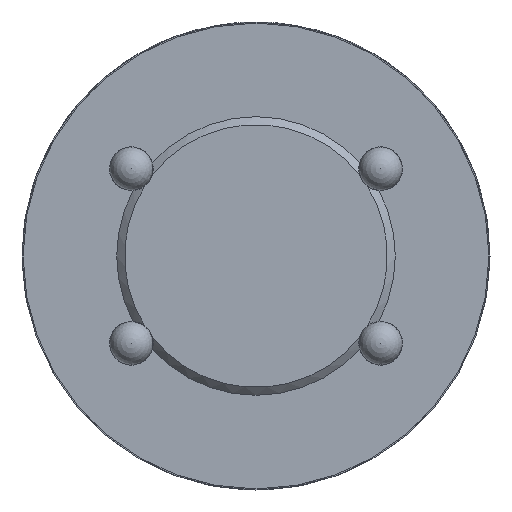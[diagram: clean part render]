
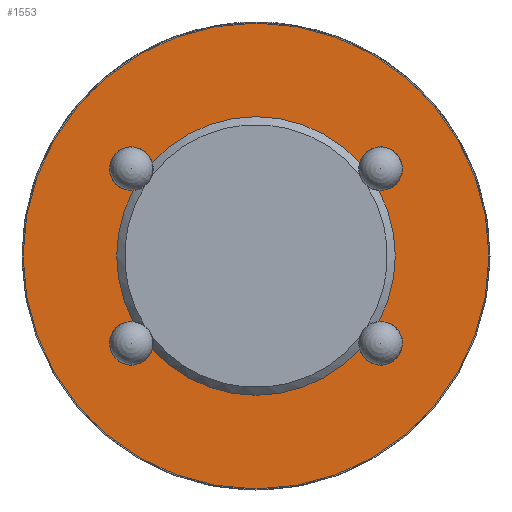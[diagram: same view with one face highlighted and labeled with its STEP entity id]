
A CAD part, left-side view. The second image highlights one B-rep face of the part: STEP entity #1553.
In plain terms, the highlighted planar face has unit normal (-1, 0, 0).
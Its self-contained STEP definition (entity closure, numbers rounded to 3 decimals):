
#54=PLANE('',#1678);
#200=CIRCLE('',#1664,12.5);
#203=CIRCLE('',#1668,12.5);
#204=CIRCLE('',#1670,12.5);
#207=CIRCLE('',#1674,12.5);
#208=CIRCLE('',#1676,20.9);
#210=CIRCLE('',#1679,1.96);
#211=CIRCLE('',#1680,1.96);
#212=CIRCLE('',#1681,1.96);
#213=CIRCLE('',#1682,1.96);
#441=ORIENTED_EDGE('',*,*,#783,.F.);
#442=ORIENTED_EDGE('',*,*,#871,.T.);
#443=ORIENTED_EDGE('',*,*,#811,.F.);
#444=ORIENTED_EDGE('',*,*,#872,.T.);
#445=ORIENTED_EDGE('',*,*,#823,.F.);
#446=ORIENTED_EDGE('',*,*,#873,.T.);
#447=ORIENTED_EDGE('',*,*,#868,.F.);
#448=ORIENTED_EDGE('',*,*,#874,.T.);
#449=ORIENTED_EDGE('',*,*,#869,.T.);
#783=EDGE_CURVE('',#1006,#1007,#200,.T.);
#811=EDGE_CURVE('',#1034,#1035,#203,.T.);
#823=EDGE_CURVE('',#1046,#1047,#204,.T.);
#868=EDGE_CURVE('',#1091,#1068,#207,.T.);
#869=EDGE_CURVE('',#1092,#1092,#208,.T.);
#871=EDGE_CURVE('',#1006,#1035,#210,.T.);
#872=EDGE_CURVE('',#1034,#1047,#211,.T.);
#873=EDGE_CURVE('',#1046,#1068,#212,.T.);
#874=EDGE_CURVE('',#1091,#1007,#213,.T.);
#1006=VERTEX_POINT('',#2286);
#1007=VERTEX_POINT('',#2288);
#1034=VERTEX_POINT('',#2376);
#1035=VERTEX_POINT('',#2378);
#1046=VERTEX_POINT('',#2416);
#1047=VERTEX_POINT('',#2418);
#1068=VERTEX_POINT('',#2499);
#1091=VERTEX_POINT('',#2574);
#1092=VERTEX_POINT('',#2578);
#1284=EDGE_LOOP('',(#441,#442,#443,#444,#445,#446,#447,#448));
#1285=EDGE_LOOP('',(#449));
#1408=FACE_BOUND('',#1284,.T.);
#1409=FACE_BOUND('',#1285,.T.);
#1553=ADVANCED_FACE('',(#1408,#1409),#54,.F.);
#1664=AXIS2_PLACEMENT_3D('',#2287,#1859,#1860);
#1668=AXIS2_PLACEMENT_3D('',#2377,#1881,#1882);
#1670=AXIS2_PLACEMENT_3D('',#2417,#1891,#1892);
#1674=AXIS2_PLACEMENT_3D('',#2575,#1921,#1922);
#1676=AXIS2_PLACEMENT_3D('',#2577,#1925,#1926);
#1678=AXIS2_PLACEMENT_3D('',#2581,#1929,#1930);
#1679=AXIS2_PLACEMENT_3D('',#2582,#1931,#1932);
#1680=AXIS2_PLACEMENT_3D('',#2583,#1933,#1934);
#1681=AXIS2_PLACEMENT_3D('',#2584,#1935,#1936);
#1682=AXIS2_PLACEMENT_3D('',#2585,#1937,#1938);
#1859=DIRECTION('',(-1.,0.,0.));
#1860=DIRECTION('',(0.,0.,1.));
#1881=DIRECTION('',(-1.,0.,0.));
#1882=DIRECTION('',(0.,0.,1.));
#1891=DIRECTION('',(-1.,0.,0.));
#1892=DIRECTION('',(0.,0.,1.));
#1921=DIRECTION('',(-1.,0.,0.));
#1922=DIRECTION('',(0.,0.,1.));
#1925=DIRECTION('',(-1.,0.,0.));
#1926=DIRECTION('',(0.,0.,1.));
#1929=DIRECTION('',(1.,0.,0.));
#1930=DIRECTION('',(0.,0.,-1.));
#1931=DIRECTION('',(1.,0.,0.));
#1932=DIRECTION('',(0.,-1.,0.));
#1933=DIRECTION('',(1.,0.,0.));
#1934=DIRECTION('',(0.,1.,0.));
#1935=DIRECTION('',(1.,0.,0.));
#1936=DIRECTION('',(0.,1.,0.));
#1937=DIRECTION('',(1.,0.,0.));
#1938=DIRECTION('',(0.,-1.,0.));
#2286=CARTESIAN_POINT('',(-35.5,11.03,5.882));
#2287=CARTESIAN_POINT('',(-35.5,0.,0.));
#2288=CARTESIAN_POINT('',(-35.5,11.03,-5.882));
#2376=CARTESIAN_POINT('',(-35.5,-9.299,8.353));
#2377=CARTESIAN_POINT('',(-35.5,0.,0.));
#2378=CARTESIAN_POINT('',(-35.5,9.299,8.353));
#2416=CARTESIAN_POINT('',(-35.5,-11.03,-5.882));
#2417=CARTESIAN_POINT('',(-35.5,0.,0.));
#2418=CARTESIAN_POINT('',(-35.5,-11.03,5.882));
#2499=CARTESIAN_POINT('',(-35.5,-9.299,-8.353));
#2574=CARTESIAN_POINT('',(-35.5,9.299,-8.353));
#2575=CARTESIAN_POINT('',(-35.5,0.,0.));
#2577=CARTESIAN_POINT('',(-35.5,0.,0.));
#2578=CARTESIAN_POINT('',(-35.5,0.,20.9));
#2581=CARTESIAN_POINT('',(-35.5,20.9,0.));
#2582=CARTESIAN_POINT('',(-35.5,11.19,7.835));
#2583=CARTESIAN_POINT('',(-35.5,-11.19,7.835));
#2584=CARTESIAN_POINT('',(-35.5,-11.19,-7.835));
#2585=CARTESIAN_POINT('',(-35.5,11.19,-7.835));
